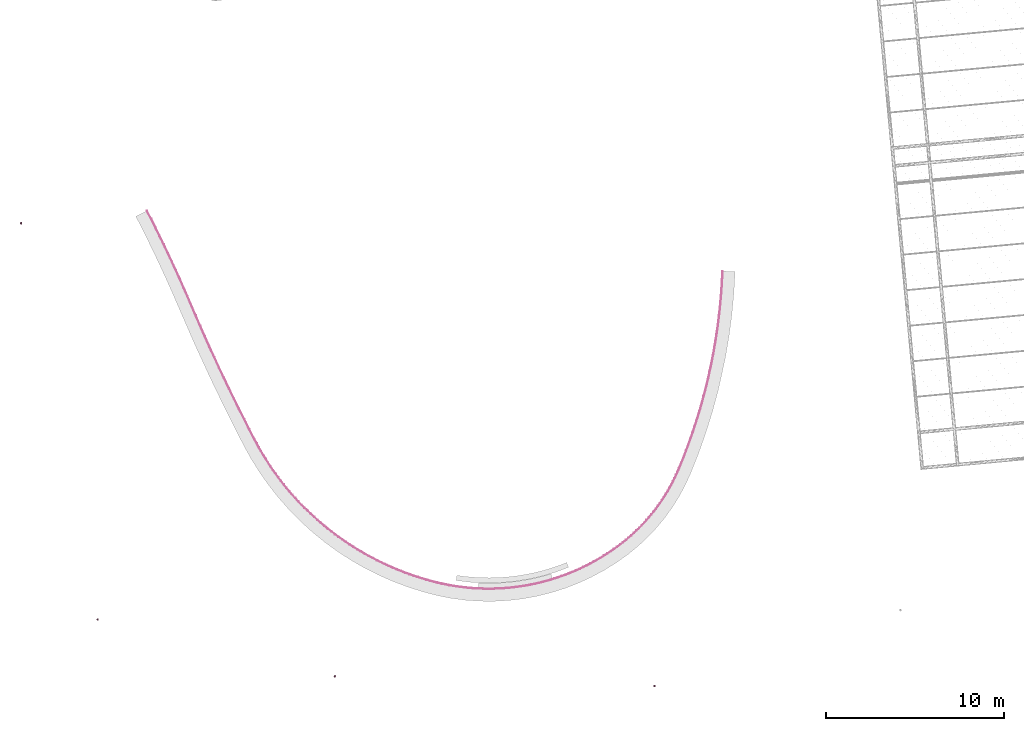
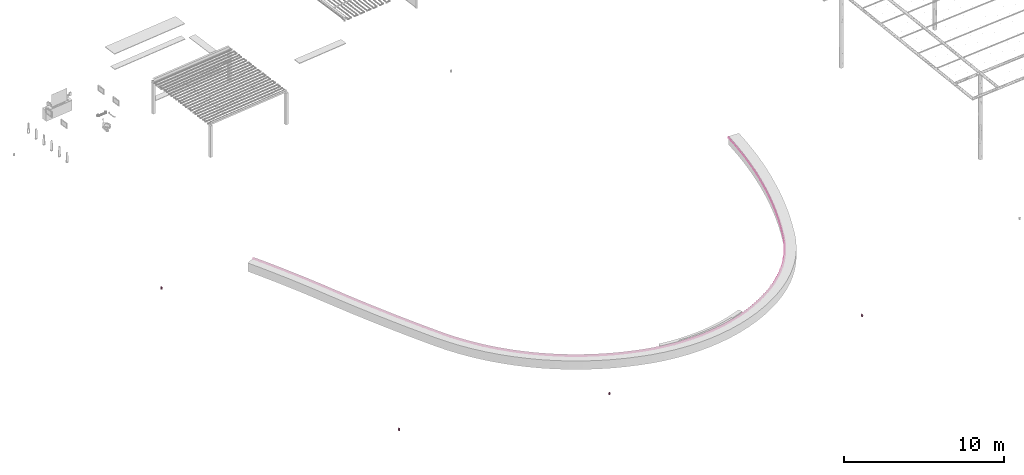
# One storey, part 4 of 10: 5 furnishings.
"""IFC2X3 building model written with IfcOpenShell, lengths in metres."""

from ifc_helpers import new_model, entity, si_unit, converted_unit, derived_unit, direction, frame, frame_2d, origin, place, context, subcontext, project, spatial, polyline, circle_curve, parameter, trimmed, segment, composite_curve, circle, outline, extrude, source, transform, mapped, material, material_list, type_object, type_shapes, element, save


model = new_model("IFC2X3")

# Units and contexts
model_context = context("Model", 3, precision=1e-05, world=origin(), true_north=direction((6.123031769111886e-17, 1.0)))
body_context = subcontext(model_context, "Body", "Model", "MODEL_VIEW")
ifc_project = project(units=[si_unit("LENGTHUNIT", "METRE"), si_unit("AREAUNIT", "SQUARE_METRE"), si_unit("VOLUMEUNIT", "CUBIC_METRE"), converted_unit("PLANEANGLEUNIT", "DEGREE", entity("IfcRatioMeasure", 0.017453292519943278), si_unit("PLANEANGLEUNIT", "RADIAN"), dimensions=[0, 0, 0, 0, 0, 0, 0]), si_unit("MASSUNIT", "GRAM", prefix="KILO"), derived_unit("MASSDENSITYUNIT", [(si_unit("MASSUNIT", "GRAM", prefix="KILO"), 1), (si_unit("LENGTHUNIT", "METRE"), -3)]), derived_unit("IONCONCENTRATIONUNIT", [(si_unit("MASSUNIT", "GRAM", prefix="KILO"), 1), (si_unit("LENGTHUNIT", "METRE"), -3)]), derived_unit("MOMENTOFINERTIAUNIT", [(si_unit("LENGTHUNIT", "METRE"), 4)]), si_unit("TIMEUNIT", "SECOND"), si_unit("FREQUENCYUNIT", "HERTZ"), si_unit("THERMODYNAMICTEMPERATUREUNIT", "DEGREE_CELSIUS"), derived_unit("THERMALTRANSMITTANCEUNIT", [(si_unit("MASSUNIT", "GRAM", prefix="KILO"), 1), (si_unit("THERMODYNAMICTEMPERATUREUNIT", "KELVIN"), -1), (si_unit("TIMEUNIT", "SECOND"), -3)]), derived_unit("THERMALCONDUCTANCEUNIT", [(si_unit("MASSUNIT", "GRAM", prefix="KILO"), 1), (si_unit("THERMODYNAMICTEMPERATUREUNIT", "KELVIN"), -1), (si_unit("TIMEUNIT", "SECOND"), -3), (si_unit("LENGTHUNIT", "METRE"), 1)]), derived_unit("VOLUMETRICFLOWRATEUNIT", [(si_unit("LENGTHUNIT", "METRE"), 3), (si_unit("TIMEUNIT", "SECOND"), -1)]), derived_unit("MASSFLOWRATEUNIT", [(si_unit("MASSUNIT", "GRAM", prefix="KILO"), 1), (si_unit("TIMEUNIT", "SECOND"), -1)]), derived_unit("ROTATIONALFREQUENCYUNIT", [(si_unit("TIMEUNIT", "SECOND"), -1)]), si_unit("ELECTRICCURRENTUNIT", "AMPERE"), si_unit("ELECTRICVOLTAGEUNIT", "VOLT"), si_unit("POWERUNIT", "WATT"), si_unit("FORCEUNIT", "NEWTON", prefix="KILO"), si_unit("ILLUMINANCEUNIT", "LUX"), si_unit("LUMINOUSFLUXUNIT", "LUMEN"), si_unit("LUMINOUSINTENSITYUNIT", "CANDELA"), derived_unit("USERDEFINED", [(si_unit("MASSUNIT", "GRAM", prefix="KILO"), -1), (si_unit("LENGTHUNIT", "METRE"), -2), (si_unit("TIMEUNIT", "SECOND"), 3), (si_unit("LUMINOUSFLUXUNIT", "LUMEN"), 1)]), derived_unit("USERDEFINED", [(si_unit("MASSUNIT", "GRAM", prefix="KILO"), 1), (si_unit("TIMEUNIT", "SECOND"), -3), (si_unit("LENGTHUNIT", "METRE"), 3), (si_unit("ELECTRICCURRENTUNIT", "AMPERE"), -2)]), derived_unit("SOUNDPOWERUNIT", [(si_unit("MASSUNIT", "GRAM", prefix="KILO"), 1), (si_unit("TIMEUNIT", "SECOND"), -3), (si_unit("LENGTHUNIT", "METRE"), 2)]), derived_unit("SOUNDPRESSUREUNIT", [(si_unit("MASSUNIT", "GRAM", prefix="KILO"), 1), (si_unit("LENGTHUNIT", "METRE"), -1), (si_unit("TIMEUNIT", "SECOND"), -2)]), derived_unit("LINEARVELOCITYUNIT", [(si_unit("LENGTHUNIT", "METRE"), 1), (si_unit("TIMEUNIT", "SECOND"), -1)]), si_unit("PRESSUREUNIT", "PASCAL"), derived_unit("USERDEFINED", [(si_unit("MASSUNIT", "GRAM", prefix="KILO"), 1), (si_unit("LENGTHUNIT", "METRE"), -2), (si_unit("TIMEUNIT", "SECOND"), -2)]), derived_unit("LINEARFORCEUNIT", [(si_unit("MASSUNIT", "GRAM", prefix="KILO"), 1), (si_unit("TIMEUNIT", "SECOND"), -2)]), derived_unit("PLANARFORCEUNIT", [(si_unit("MASSUNIT", "GRAM", prefix="KILO"), 1), (si_unit("LENGTHUNIT", "METRE"), -1), (si_unit("TIMEUNIT", "SECOND"), -2)]), derived_unit("SPECIFICHEATCAPACITYUNIT", [(si_unit("THERMODYNAMICTEMPERATUREUNIT", "KELVIN"), -1), (si_unit("LENGTHUNIT", "METRE"), 2), (si_unit("TIMEUNIT", "SECOND"), -2)]), derived_unit("HEATINGVALUEUNIT", [(si_unit("LENGTHUNIT", "METRE"), 2), (si_unit("TIMEUNIT", "SECOND"), -2)]), derived_unit("VAPORPERMEABILITYUNIT", [(si_unit("LENGTHUNIT", "METRE"), -1), (si_unit("TIMEUNIT", "SECOND"), 1)]), derived_unit("DYNAMICVISCOSITYUNIT", [(si_unit("MASSUNIT", "GRAM", prefix="KILO"), 1), (si_unit("TIMEUNIT", "SECOND"), -1), (si_unit("LENGTHUNIT", "METRE"), -1)]), derived_unit("THERMALEXPANSIONCOEFFICIENTUNIT", [(si_unit("THERMODYNAMICTEMPERATUREUNIT", "KELVIN"), -1)]), derived_unit("MODULUSOFELASTICITYUNIT", [(si_unit("MASSUNIT", "GRAM", prefix="KILO"), 1), (si_unit("LENGTHUNIT", "METRE"), -1), (si_unit("TIMEUNIT", "SECOND"), -2)]), derived_unit("ISOTHERMALMOISTURECAPACITYUNIT", [(si_unit("LENGTHUNIT", "METRE"), 3), (si_unit("MASSUNIT", "GRAM", prefix="KILO"), -1)]), derived_unit("MOISTUREDIFFUSIVITYUNIT", [(si_unit("TIMEUNIT", "SECOND"), -1), (si_unit("LENGTHUNIT", "METRE"), 2)])], contexts=[model_context])

# Site, building, storey
site_placement = place(None, origin())
site = spatial("IfcSite", under=ifc_project, at=site_placement, Name="Default", CompositionType="ELEMENT")
building_placement = place(site_placement, origin())
building = spatial("IfcBuilding", under=site, at=building_placement, Name="Projeto", CompositionType="ELEMENT")
storey_placement = place(building_placement, frame((0.0, 0.0, -2.581035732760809)))
storey = spatial("IfcBuildingStorey", under=building, at=storey_placement, Name="Nível 9", CompositionType="ELEMENT", Elevation=-2.581035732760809)

# Furnishings
ifc_material_1 = material(Name="Aço")
ifc_material_2 = material(Name="<Unnamed>")
ifc_material_list = material_list([ifc_material_1, ifc_material_2])
furniture_type_1 = type_object("IfcFurnitureType", Name="Iluminação de chão:Iluminação de chão", material=ifc_material_list)
shared_shape_1 = source(origin(), body_context, "Body", "SweptSolid", [
    extrude(outline(polyline([(-0.026756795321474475, -0.05273292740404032), (0.025445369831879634, -0.05273292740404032), (0.05904645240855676, 0.0054658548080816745), (-0.010235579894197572, 0.04546585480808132), (-0.02074265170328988, 0.027267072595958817), (-0.02675679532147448, 0.027267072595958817), (-0.026756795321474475, -0.05273292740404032)])), frame((0.014277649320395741, -0.05750000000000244, 0.026756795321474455), z_axis=(0.0, 1.0, 0.0), x_axis=(0.0, 0.0, 1.0)), (0.0, 0.0, 1.0), 0.11499999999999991),
    extrude(circle(Radius=0.059999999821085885, at=frame_2d((1.4775496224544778e-22, -9.693267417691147e-17), x_axis=(1.0, 0.0))), frame((0.0, 0.0, -0.10000000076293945)), (0.0, 0.0, 1.0), 0.10000000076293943),
])
type_shapes(furniture_type_1, [shared_shape_1])
furnishing_1_placement = place(storey_placement, frame((-21.41023223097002, 10.448451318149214, 1.379466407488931)))
element("IfcFurnishingElement", 1, at=furnishing_1_placement, inside=storey, type_object=furniture_type_1, material=ifc_material_list, Name="Iluminação de chão:Iluminação de chão", ObjectType="Iluminação de chão:Iluminação de chão", context=body_context, shape_type="MappedRepresentation", body=[
    mapped(shared_shape_1, transform((0.0, 0.0, 0.0), scale=1.0)),
])
furnishing_2_placement = place(storey_placement, frame((-3.822714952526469, -14.942215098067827, 2.5810357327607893), z_axis=(0.0, 0.0, 1.0), x_axis=(-0.49142642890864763, 0.8709190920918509, 0.0)))
element("IfcFurnishingElement", 2, at=furnishing_2_placement, inside=storey, type_object=furniture_type_1, material=ifc_material_list, Name="Iluminação de chão:Iluminação de chão", ObjectType="Iluminação de chão:Iluminação de chão", context=body_context, shape_type="MappedRepresentation", body=[
    mapped(shared_shape_1, transform((0.0, 0.0, 0.0), scale=1.0)),
])
for number, where in (
    (3, (-17.12440642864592, -11.757186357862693, 2.581035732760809)),
    (4, (14.077790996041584, -15.4733254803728, 2.581035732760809)),
):
    element("IfcFurnishingElement", number, at=place(storey_placement, frame(where)), inside=storey, type_object=furniture_type_1, material=ifc_material_list, Name="Iluminação de chão:Iluminação de chão", ObjectType="Iluminação de chão:Iluminação de chão", context=body_context, shape_type="MappedRepresentation", body=[
        mapped(shared_shape_1, transform((0.0, 0.0, 0.0), scale=1.0)),
    ])
ifc_material_3 = material(Name="Camada de suporte de metal")
furniture_type_2 = type_object("IfcFurnitureType", Name="Mobiliário 3:Mobiliário 2", material=ifc_material_3)
shared_shape_2 = source(origin(), body_context, "Body", "SweptSolid", [
    extrude(outline(composite_curve([segment(trimmed(circle_curve(frame_2d((-5.837946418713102, 2.821110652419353), x_axis=(0.6876609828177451, -0.7260319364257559)), 15.71173071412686), [parameter(0.00018588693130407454)], [parameter(46.5547606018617)], True, "PARAMETER"), False, "CONTINUOUS"), segment(trimmed(circle_curve(frame_2d((-3.514718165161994, 0.18749162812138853), x_axis=(-0.1678406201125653, -0.9858141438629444)), 12.202679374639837), [parameter(359.9999608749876)], [parameter(53.691407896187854)], True, "PARAMETER"), False, "CONTINUOUS"), segment(trimmed(circle_curve(frame_2d((-3.8028030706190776, -1.6075966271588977), x_axis=(-0.6399943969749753, -0.7683795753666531)), 10.38471804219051), [parameter(0.0)], [parameter(30.033666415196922)], True, "PARAMETER"), False, "CONTINUOUS"), segment(trimmed(circle_curve(frame_2d((9.835438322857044, 14.76652505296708), x_axis=(-0.869225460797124, -0.4944159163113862)), 31.694656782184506), [parameter(0.0)], [parameter(20.577355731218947)], True, "PARAMETER"), False, "CONTINUOUS"), segment(polyline([(-17.714364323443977, -0.9038177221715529), (-17.740441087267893, -0.918650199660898)]), True, "CONTINUOUS"), segment(trimmed(circle_curve(frame_2d((9.835438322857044, 14.76652505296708), x_axis=(-0.869225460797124, -0.4944159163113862)), 31.72465678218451), [parameter(0.0)], [parameter(20.577355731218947)], True, "PARAMETER"), True, "CONTINUOUS"), segment(trimmed(circle_curve(frame_2d((-3.8028030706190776, -1.6075966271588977), x_axis=(-0.6399943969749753, -0.7683795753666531)), 10.414718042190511), [parameter(0.0)], [parameter(30.033803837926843)], True, "PARAMETER"), True, "CONTINUOUS"), segment(trimmed(circle_curve(frame_2d((-3.514718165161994, 0.18749162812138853), x_axis=(-0.1678406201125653, -0.9858141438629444)), 12.232679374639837), [parameter(359.9998439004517)], [parameter(53.69069204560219)], True, "PARAMETER"), True, "CONTINUOUS"), segment(trimmed(circle_curve(frame_2d((-5.837946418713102, 2.821110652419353), x_axis=(0.6876609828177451, -0.7260319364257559)), 15.741730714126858), [parameter(0.0007419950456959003)], [parameter(46.554760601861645)], True, "PARAMETER"), True, "CONTINUOUS"), segment(trimmed(circle_curve(frame_2d((-96.65447616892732, 2.8211106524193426), x_axis=(1.0, 0.0)), 106.55826046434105), [parameter(0.0)], [parameter(4.485315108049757)], True, "PARAMETER"), True, "CONTINUOUS"), segment(trimmed(circle_curve(frame_2d((87.60798253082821, 17.275362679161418), x_axis=(-0.9969374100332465, -0.07820358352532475)), 78.27025218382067), [parameter(355.7240854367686)], [parameter(0.0)], True, "PARAMETER"), False, "CONTINUOUS"), segment(polyline([(9.338253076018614, 16.989306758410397), (9.308253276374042, 16.989197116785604)]), True, "CONTINUOUS"), segment(trimmed(circle_curve(frame_2d((87.60798253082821, 17.275362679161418), x_axis=(-0.9969374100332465, -0.07820358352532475)), 78.30025218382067), [parameter(355.7240854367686)], [parameter(0.0)], True, "PARAMETER"), True, "CONTINUOUS"), segment(trimmed(circle_curve(frame_2d((-96.65447616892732, 2.8211106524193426), x_axis=(1.0, 0.0)), 106.52826046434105), [parameter(0.0)], [parameter(4.485315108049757)], True, "PARAMETER"), False, "CONTINUOUS")], self_intersect=False)), frame((1.7586005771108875, 0.38984144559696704, -1.9099999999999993), z_axis=(0.0, 0.0, -1.0), x_axis=(-0.8870322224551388, -0.461707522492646, 0.0)), (0.0, 0.0, -1.0), 0.009999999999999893),
])
type_shapes(furniture_type_2, [shared_shape_2])
furnishing_3_placement = place(storey_placement, frame((0.0, 0.0, 2.581035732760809)))
element("IfcFurnishingElement", 5, at=furnishing_3_placement, inside=storey, type_object=furniture_type_2, material=ifc_material_3, Name="Mobiliário 3:Mobiliário 2", ObjectType="Mobiliário 3:Mobiliário 2", context=body_context, shape_type="MappedRepresentation", body=[
    mapped(shared_shape_2, transform((0.0, 0.0, 0.0), scale=1.0)),
])

save(model, "model.ifc")
